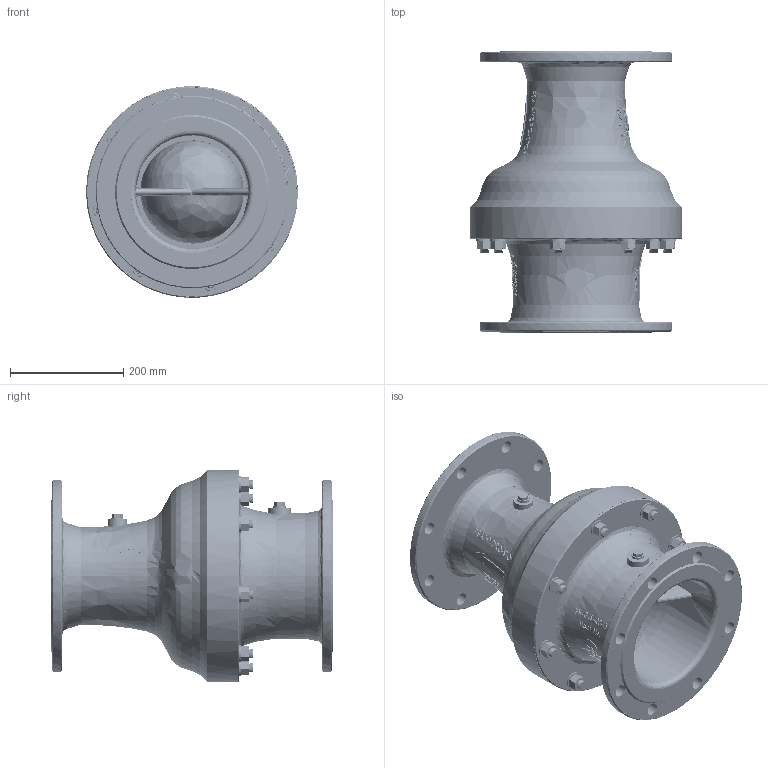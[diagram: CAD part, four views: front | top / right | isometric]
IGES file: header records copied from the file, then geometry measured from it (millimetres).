
Start section: P
Global section: file name: PSA_Hydro-Stop_DN200_PN10.igs; native system: By Siemens PLM Incorporated; preprocessor: XPlus GENERIC/IGES 25.1.153; author: Christin-Michelle Fremgen; organization: PSA Wasserarmaturen GmbH; date: 20241009.154811; units: millimetre
Bounding box: 374 x 499.4 x 373.66 mm (x, y, z)
Surface area: 1350329.1 mm2 (no closed solid volume)
Topology: 0 solids, 0 shells, 2466 faces, 14523 edges, 14512 vertices
Faces by surface type: bspline 2466
